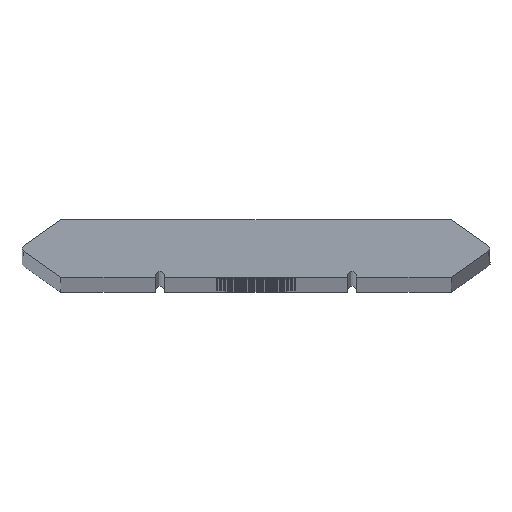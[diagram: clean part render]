
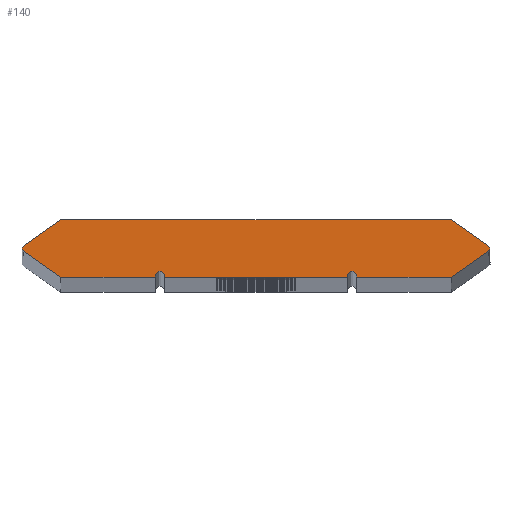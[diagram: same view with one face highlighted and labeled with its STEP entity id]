
A CAD part, top view. The second image highlights one B-rep face of the part: STEP entity #140.
In plain terms, the highlighted planar face has unit normal (0, 0, 1).
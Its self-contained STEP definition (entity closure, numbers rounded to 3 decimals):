
#140=ADVANCED_FACE('',(#352),#353,.F.);
#352=FACE_OUTER_BOUND('',#564,.T.);
#353=PLANE('',#565);
#564=EDGE_LOOP('',(#969,#970,#971,#972,#973,#974,#975,#976,#977,#978,#979,#980,#981,#982,#983,#984));
#565=AXIS2_PLACEMENT_3D('',#985,#986,#987);
#969=ORIENTED_EDGE('',*,*,#1029,.F.);
#970=ORIENTED_EDGE('',*,*,#1009,.F.);
#971=ORIENTED_EDGE('',*,*,#1027,.F.);
#972=ORIENTED_EDGE('',*,*,#1099,.F.);
#973=ORIENTED_EDGE('',*,*,#1097,.F.);
#974=ORIENTED_EDGE('',*,*,#1082,.F.);
#975=ORIENTED_EDGE('',*,*,#1080,.F.);
#976=ORIENTED_EDGE('',*,*,#1077,.F.);
#977=ORIENTED_EDGE('',*,*,#1084,.F.);
#978=ORIENTED_EDGE('',*,*,#1086,.F.);
#979=ORIENTED_EDGE('',*,*,#1088,.F.);
#980=ORIENTED_EDGE('',*,*,#1090,.F.);
#981=ORIENTED_EDGE('',*,*,#1092,.F.);
#982=ORIENTED_EDGE('',*,*,#1094,.F.);
#983=ORIENTED_EDGE('',*,*,#1096,.F.);
#984=ORIENTED_EDGE('',*,*,#1005,.F.);
#985=CARTESIAN_POINT('',(37.922,0.,0.));
#986=DIRECTION('',(0.,0.0,-1.0));
#987=DIRECTION('',(0.0,1.0,0.0));
#1005=EDGE_CURVE('',#1134,#1135,#1136,.T.);
#1009=EDGE_CURVE('',#1142,#1143,#1144,.T.);
#1027=EDGE_CURVE('',#1176,#1142,#1177,.T.);
#1029=EDGE_CURVE('',#1143,#1134,#1179,.T.);
#1077=EDGE_CURVE('',#1274,#1275,#1276,.T.);
#1080=EDGE_CURVE('',#1275,#1279,#1280,.T.);
#1082=EDGE_CURVE('',#1279,#1282,#1283,.T.);
#1084=EDGE_CURVE('',#1285,#1274,#1286,.T.);
#1086=EDGE_CURVE('',#1288,#1285,#1289,.T.);
#1088=EDGE_CURVE('',#1291,#1288,#1292,.T.);
#1090=EDGE_CURVE('',#1294,#1291,#1295,.T.);
#1092=EDGE_CURVE('',#1297,#1294,#1298,.T.);
#1094=EDGE_CURVE('',#1300,#1297,#1301,.T.);
#1096=EDGE_CURVE('',#1135,#1300,#1303,.T.);
#1097=EDGE_CURVE('',#1282,#1304,#1305,.T.);
#1099=EDGE_CURVE('',#1304,#1176,#1307,.T.);
#1134=VERTEX_POINT('',#1342);
#1135=VERTEX_POINT('',#1343);
#1136=LINE('',#1344,#1345);
#1142=VERTEX_POINT('',#1354);
#1143=VERTEX_POINT('',#1355);
#1144=CIRCLE('',#1356,0.498);
#1176=VERTEX_POINT('',#1401);
#1177=LINE('',#1402,#1403);
#1179=LINE('',#1406,#1407);
#1274=VERTEX_POINT('',#1502);
#1275=VERTEX_POINT('',#1503);
#1276=LINE('',#1504,#1505);
#1279=VERTEX_POINT('',#1510);
#1280=LINE('',#1511,#1512);
#1282=VERTEX_POINT('',#1515);
#1283=CIRCLE('',#1516,0.75);
#1285=VERTEX_POINT('',#1519);
#1286=LINE('',#1520,#1521);
#1288=VERTEX_POINT('',#1524);
#1289=CIRCLE('',#1525,0.75);
#1291=VERTEX_POINT('',#1528);
#1292=LINE('',#1529,#1530);
#1294=VERTEX_POINT('',#1533);
#1295=LINE('',#1534,#1535);
#1297=VERTEX_POINT('',#1538);
#1298=LINE('',#1539,#1540);
#1300=VERTEX_POINT('',#1543);
#1301=CIRCLE('',#1544,0.498);
#1303=LINE('',#1547,#1548);
#1304=VERTEX_POINT('',#1549);
#1305=LINE('',#1550,#1551);
#1307=LINE('',#1554,#1555);
#1342=CARTESIAN_POINT('',(-32.056,4.715,0.));
#1343=CARTESIAN_POINT('',(32.056,4.715,0.));
#1344=CARTESIAN_POINT('',(-32.056,4.715,0.));
#1345=VECTOR('',#1607,1.0);
#1354=CARTESIAN_POINT('',(-38.208,-0.408,0.));
#1355=CARTESIAN_POINT('',(-38.208,0.408,0.));
#1356=AXIS2_PLACEMENT_3D('',#1611,#1612,#1613);
#1401=CARTESIAN_POINT('',(-32.056,-4.715,0.));
#1402=CARTESIAN_POINT('',(-32.056,-4.715,0.));
#1403=VECTOR('',#1639,1.0);
#1406=CARTESIAN_POINT('',(-38.208,0.408,0.));
#1407=VECTOR('',#1641,1.0);
#1502=CARTESIAN_POINT('',(15.0,-4.715,0.));
#1503=CARTESIAN_POINT('',(-15.0,-4.715,0.));
#1504=CARTESIAN_POINT('',(15.0,-4.715,0.));
#1505=VECTOR('',#1783,1.0);
#1510=CARTESIAN_POINT('',(-15.0,-4.465,0.));
#1511=CARTESIAN_POINT('',(-15.0,-4.715,0.));
#1512=VECTOR('',#1786,1.0);
#1515=CARTESIAN_POINT('',(-16.5,-4.465,0.));
#1516=AXIS2_PLACEMENT_3D('',#1788,#1789,#1790);
#1519=CARTESIAN_POINT('',(15.0,-4.465,0.));
#1520=CARTESIAN_POINT('',(15.0,-4.465,0.));
#1521=VECTOR('',#1792,1.0);
#1524=CARTESIAN_POINT('',(16.5,-4.465,0.));
#1525=AXIS2_PLACEMENT_3D('',#1794,#1795,#1796);
#1528=CARTESIAN_POINT('',(16.5,-4.715,0.));
#1529=CARTESIAN_POINT('',(16.5,-4.715,0.));
#1530=VECTOR('',#1798,1.0);
#1533=CARTESIAN_POINT('',(32.056,-4.715,0.));
#1534=CARTESIAN_POINT('',(32.056,-4.715,0.));
#1535=VECTOR('',#1800,1.0);
#1538=CARTESIAN_POINT('',(38.208,-0.408,0.));
#1539=CARTESIAN_POINT('',(38.208,-0.408,0.));
#1540=VECTOR('',#1802,1.0);
#1543=CARTESIAN_POINT('',(38.208,0.408,0.));
#1544=AXIS2_PLACEMENT_3D('',#1804,#1805,#1806);
#1547=CARTESIAN_POINT('',(32.056,4.715,0.));
#1548=VECTOR('',#1808,1.0);
#1549=CARTESIAN_POINT('',(-16.5,-4.715,0.));
#1550=CARTESIAN_POINT('',(-16.5,-4.465,0.));
#1551=VECTOR('',#1809,1.0);
#1554=CARTESIAN_POINT('',(-16.5,-4.715,0.));
#1555=VECTOR('',#1811,1.0);
#1607=DIRECTION('',(1.0,0.0,0.));
#1611=CARTESIAN_POINT('',(-37.922,0.,0.));
#1612=DIRECTION('',(0.,0.0,-1.0));
#1613=DIRECTION('',(-1.0,0.0,0.));
#1639=DIRECTION('',(-0.819,0.574,0.));
#1641=DIRECTION('',(0.819,0.574,0.));
#1783=DIRECTION('',(-1.0,0.0,0.));
#1786=DIRECTION('',(0.0,1.0,0.0));
#1788=CARTESIAN_POINT('',(-15.75,-4.465,0.));
#1789=DIRECTION('',(0.,0.0,1.0));
#1790=DIRECTION('',(-1.0,0.0,0.));
#1792=DIRECTION('',(0.0,-1.0,0.0));
#1794=CARTESIAN_POINT('',(15.75,-4.465,0.));
#1795=DIRECTION('',(0.,0.0,1.0));
#1796=DIRECTION('',(-1.0,0.0,0.));
#1798=DIRECTION('',(0.0,1.0,0.0));
#1800=DIRECTION('',(-1.0,0.0,0.));
#1802=DIRECTION('',(-0.819,-0.574,0.));
#1804=CARTESIAN_POINT('',(37.922,0.,0.));
#1805=DIRECTION('',(0.,0.0,-1.0));
#1806=DIRECTION('',(-1.0,0.0,0.));
#1808=DIRECTION('',(0.819,-0.574,0.));
#1809=DIRECTION('',(0.0,-1.0,0.0));
#1811=DIRECTION('',(-1.0,0.0,0.));
